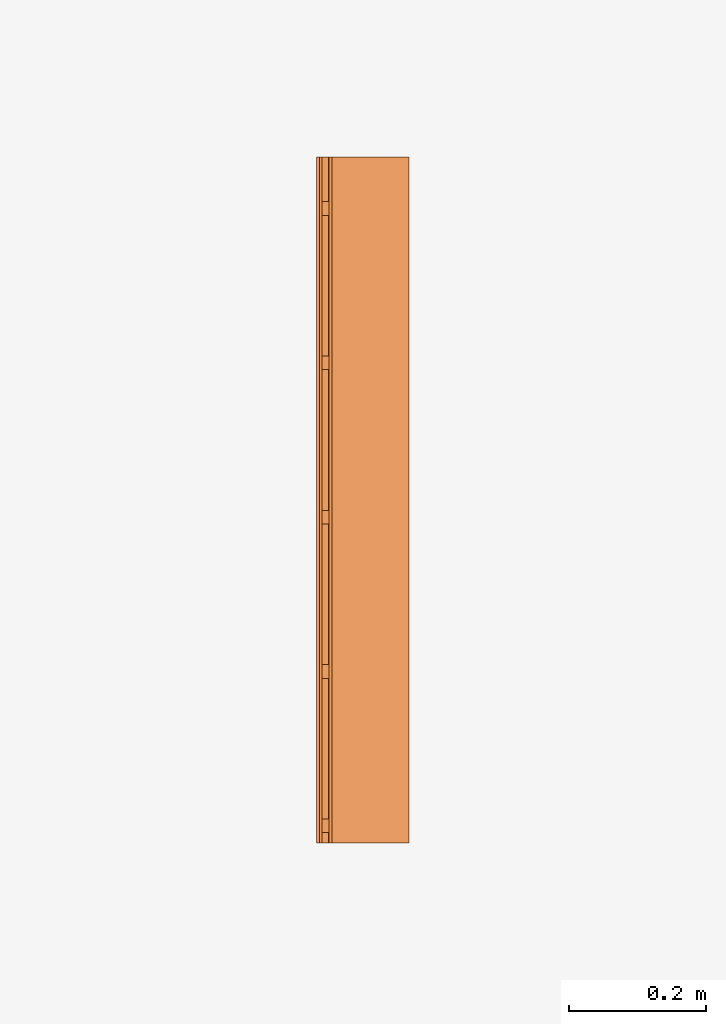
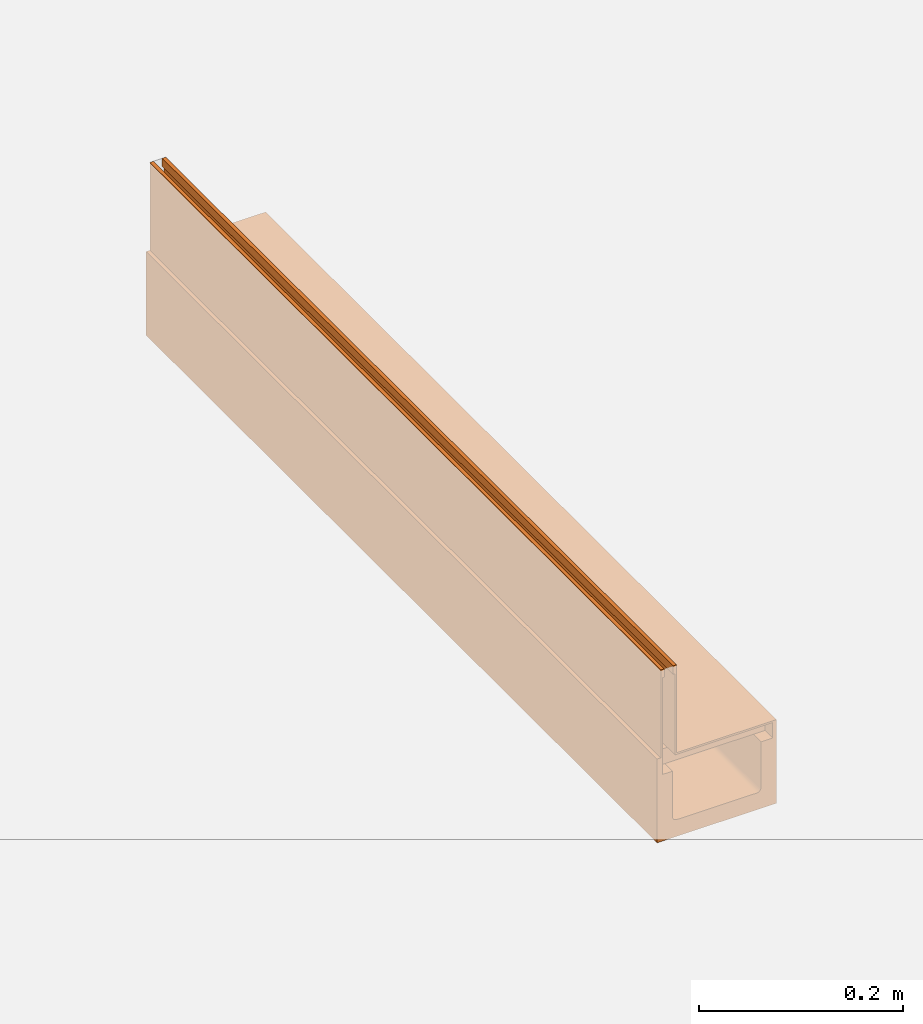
# One storey, part 2 of 2: 1 proxy.
"""IFC2X3 building model written with IfcOpenShell, lengths in millimetres."""

from ifc_helpers import new_model, entity, si_unit, converted_unit, direction, frame, frame_2d, origin, place, context, subcontext, project, spatial, polyline, circle_curve, parameter, trimmed, segment, composite_curve, outline, extrude, source, transform, mapped, material, material_list, element, save


model = new_model("IFC2X3")

# Units and contexts
model_context = context("Model", 3, precision=1e-06, world=origin(), true_north=direction((2.0, 6.12303176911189e-17, 1.0)))
context_of_model = context(None, 3, precision=1e-06, world=origin(), true_north=direction((2.0, 6.12303176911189e-17, 1.0)))
body_context = subcontext(model_context, "Body", "Model", "MODEL_VIEW")
ifc_project = project(units=[si_unit("LENGTHUNIT", "METRE", prefix="MILLI"), si_unit("AREAUNIT", "SQUARE_METRE", prefix="MILLI"), si_unit("VOLUMEUNIT", "CUBIC_METRE", prefix="MILLI"), converted_unit("PLANEANGLEUNIT", "DEGREE", entity("IfcRatioMeasure", 0.0174532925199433), si_unit("PLANEANGLEUNIT", "RADIAN"), dimensions=[0, 0, 0, 0, 0, 0, 0]), si_unit("TIMEUNIT", "SECOND")], contexts=[model_context, context_of_model])

# Site, building, storey
site_placement = place(None, origin())
site = spatial("IfcSite", under=ifc_project, at=site_placement, Name="Default", CompositionType="ELEMENT")
building_placement = place(site_placement, origin())
building = spatial("IfcBuilding", under=site, at=building_placement, CompositionType="ELEMENT")
storey_placement = place(building_placement, origin())
storey = spatial("IfcBuildingStorey", under=building, at=storey_placement, Name="Level 1", CompositionType="ELEMENT", Elevation=0.0)

# Proxy
ifc_material_1 = material(Name="Stainless Steel (F)")
ifc_material_2 = material(Name="Vienite® Synthetic Resin Concrete")
ifc_material_list = material_list([ifc_material_1, ifc_material_2])
shared_shape = source(origin(), body_context, "Body", "SweptSolid", [
    extrude(outline(polyline([(-9.24999999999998, -10.0), (9.25000000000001, -10.0), (9.24999999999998, 10.0), (-9.25000000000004, 10.0), (-9.24999999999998, -10.0)]), holes=[polyline([(7.25000000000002, -8.0), (-7.25000000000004, -8.0), (-7.25000000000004, 8.0), (7.24999999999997, 8.0), (7.25000000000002, -8.0)])]), frame((-61.2500000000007, 25.0, -116.249999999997), z_axis=(1.0, 0.0, 0.0), x_axis=(0.0, 0.0, -1.0)), (0.0, 0.0, 1.0), 124.5),
    extrude(outline(polyline([(-9.24999999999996, -10.0), (9.25000000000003, -10.0), (9.24999999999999, 10.0), (-9.25000000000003, 10.0), (-9.24999999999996, -10.0)]), holes=[polyline([(7.25000000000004, -8.0), (-7.25000000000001, -8.0), (-7.25000000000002, 8.0), (7.24999999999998, 8.0), (7.25000000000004, -8.0)])]), frame((-61.2500000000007, 250.0, -116.249999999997), z_axis=(1.0, 0.0, 0.0), x_axis=(0.0, 0.0, -1.0)), (0.0, 0.0, 1.0), 124.5),
    extrude(outline(polyline([(-9.24999999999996, -10.0), (9.25000000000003, -10.0), (9.24999999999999, 10.0), (-9.25000000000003, 10.0), (-9.24999999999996, -10.0)]), holes=[polyline([(7.25000000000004, -8.0), (-7.25000000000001, -8.0), (-7.25000000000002, 8.0), (7.24999999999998, 8.0), (7.25000000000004, -8.0)])]), frame((-61.2500000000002, 475.0, -116.249999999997), z_axis=(1.0, 0.0, 0.0), x_axis=(0.0, 0.0, -1.0)), (0.0, 0.0, 1.0), 124.5),
    extrude(outline(polyline([(45.5, -29.6250000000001), (55.5, -29.6250000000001), (55.5, -25.6249999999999), (-49.5, -25.6249999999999), (-49.5000000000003, 82.875), (-51.5, 82.875), (-51.4999999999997, -27.625), (45.5, -27.625), (45.5, -29.6250000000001)])), frame((-19.6250000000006, 0.0, -55.4999999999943), z_axis=(0.0, 1.0, 0.0), x_axis=(0.0, 0.0, 1.0)), (0.0, 0.0, 1.0), 1000.0),
    extrude(outline(polyline([(-80.3333333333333, -2.0), (45.1666666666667, -2.0), (45.1666666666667, 2.0), (35.1666666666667, 2.0), (35.1666666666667, 0.0), (-80.3333333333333, 0.0), (-80.3333333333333, -2.0)])), frame((-61.2500000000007, 0.0, -45.166666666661), z_axis=(0.0, 1.0, 0.0), x_axis=(0.0, 0.0, 1.0)), (0.0, 0.0, 1.0), 1000.0),
    extrude(outline(polyline([(-9.25000000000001, -10.0), (9.24999999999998, -10.0), (9.25000000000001, 10.0), (-9.25000000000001, 10.0), (-9.25000000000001, -10.0)]), holes=[polyline([(7.24999999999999, -8.0), (-7.25000000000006, -8.0), (-7.25000000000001, 8.0), (7.24999999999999, 8.0), (7.24999999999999, -8.0)])]), frame((-61.2500000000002, 700.0, -116.249999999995), z_axis=(1.0, 0.0, 0.0), x_axis=(0.0, 0.0, -1.0)), (0.0, 0.0, 1.0), 124.5),
    extrude(outline(polyline([(-9.24999999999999, -10.0), (9.24999999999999, -10.0), (9.25000000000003, 10.0), (-9.24999999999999, 10.0), (-9.24999999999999, -10.0)]), holes=[polyline([(7.25000000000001, -8.0), (-7.25000000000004, -8.0), (-7.24999999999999, 8.0), (7.25000000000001, 8.0), (7.25000000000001, -8.0)])]), frame((-61.2499999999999, 925.0, -116.249999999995), z_axis=(1.0, 0.0, 0.0), x_axis=(0.0, 0.0, -1.0)), (0.0, 0.0, 1.0), 124.5),
    extrude(outline(composite_curve([segment(polyline([(-50.0, -32.714285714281), (-50.0, 21.7857142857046)]), True, "CONTINUOUS"), segment(polyline([(-50.0, 21.7857142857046), (-63.2499999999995, 21.7857142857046)]), True, "CONTINUOUS"), segment(polyline([(-63.2499999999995, 21.7857142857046), (-63.2499999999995, 42.2857142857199)]), True, "CONTINUOUS"), segment(polyline([(-63.2499999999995, 42.2857142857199), (-67.5000000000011, 42.2857142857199)]), True, "CONTINUOUS"), segment(polyline([(-67.5000000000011, 42.2857142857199), (-67.5000000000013, -57.7142857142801)]), True, "CONTINUOUS"), segment(polyline([(-67.5000000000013, -57.7142857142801), (67.4999999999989, -57.7142857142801)]), True, "CONTINUOUS"), segment(polyline([(67.4999999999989, -57.7142857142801), (67.4999999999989, 42.2857142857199)]), True, "CONTINUOUS"), segment(polyline([(67.4999999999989, 42.2857142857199), (63.2500000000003, 42.2857142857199)]), True, "CONTINUOUS"), segment(polyline([(63.2500000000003, 42.2857142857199), (63.2500000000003, 21.7857142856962)]), True, "CONTINUOUS"), segment(polyline([(63.2500000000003, 21.7857142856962), (50.0, 21.7857142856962)]), True, "CONTINUOUS"), segment(polyline([(50.0, 21.7857142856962), (50.0, -32.7142857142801)]), True, "CONTINUOUS"), segment(trimmed(circle_curve(frame_2d((45.0, -32.7142857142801), x_axis=(1.0, 0.0)), 5.0), [parameter(270.0)], [parameter(0.0)], True, "PARAMETER"), False, "CONTINUOUS"), segment(polyline([(45.0, -37.7142857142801), (-45.0, -37.7142857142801)]), True, "CONTINUOUS"), segment(trimmed(circle_curve(frame_2d((-45.0, -32.714285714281), x_axis=(1.0, 0.0)), 5.0), [parameter(180.0)], [parameter(270.0)], True, "PARAMETER"), False, "CONTINUOUS")], self_intersect=False)), frame((0.0, 0.0, -147.285714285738), z_axis=(0.0, -1.0, 0.0), x_axis=(1.0, 0.0, 0.0)), (0.0, 0.0, -1.0), 1000.0),
])
proxy_placement = place(storey_placement, frame((0.0, -230.0, 0.0)))
element("IfcBuildingElementProxy", 1, at=proxy_placement, inside=storey, material=ifc_material_list, Name="Civil-Drainage-Channel-ACO-MultiDrain-M100DS-Brickslot-Channel-System:24000 - No 0.0 Constant Depth Channel - 1000mm LG - Invert Depth 130mm:24000 - No 0.0 Constant Depth Channel - 1000mm LG - Invert Depth 130mm", ObjectType="24000 - No 0.0 Constant Depth Channel - 1000mm LG - Invert Depth 130mm", CompositionType="ELEMENT", context=body_context, shape_type="MappedRepresentation", body=[
    mapped(shared_shape, transform((0.0, 0.0, 0.0), scale=1.0)),
])

save(model, "model.ifc")
